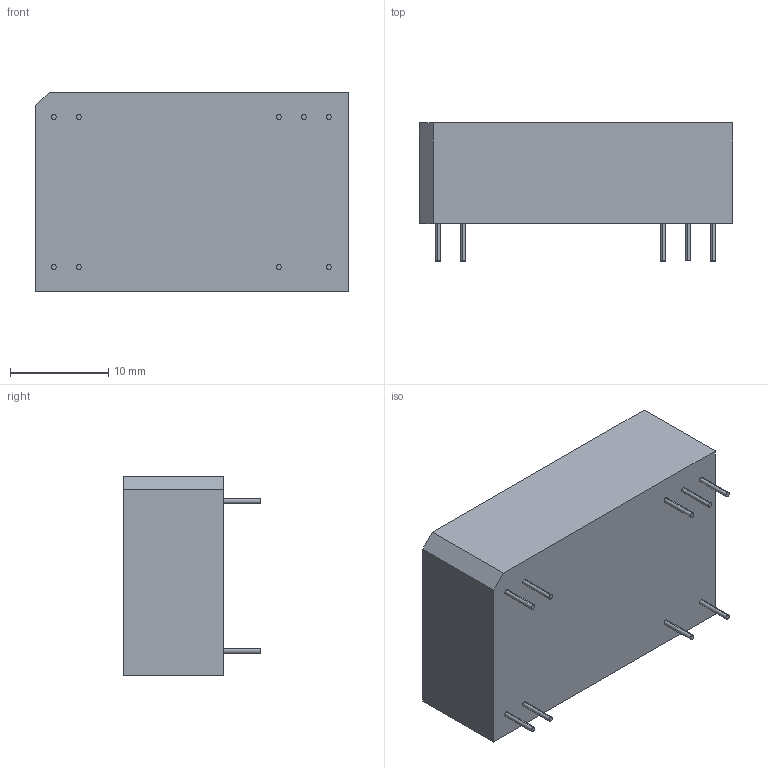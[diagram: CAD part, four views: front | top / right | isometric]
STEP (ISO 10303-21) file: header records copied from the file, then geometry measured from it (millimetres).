
FILE_DESCRIPTION (( 'STEP AP214' ), '1' );
FILE_NAME ('MIR500 series 3D¤Ø¤o¥~Æ[¹Ï_20240304.STEP', '2024-03-04T00:51:22', ( '' ), ( '' ), 'SwSTEP 2.0', 'SolidWorks 2021', '' );
FILE_SCHEMA (( 'AUTOMOTIVE_DESIGN' ));
Length unit declared in the file: millimetre
Products named in the file (1): MIR500 series 3D尺寸外觀圖_20240304
Bounding box: 31.8 x 14 x 20.3 mm (x, y, z)
Volume: 6581.2 mm3; surface area: 2397.3 mm2
Topology: 1 solids, 1 shells, 34 faces, 69 edges, 46 vertices
Faces by surface type: cylinder 18, plane 16
Entity records: 1240 total; most frequent: DIRECTION 175, CARTESIAN_POINT 150, ORIENTED_EDGE 138, AXIS2_PLACEMENT_3D 71, EDGE_CURVE 69, VERTEX_POINT 46, EDGE_LOOP 43, CIRCLE 36
